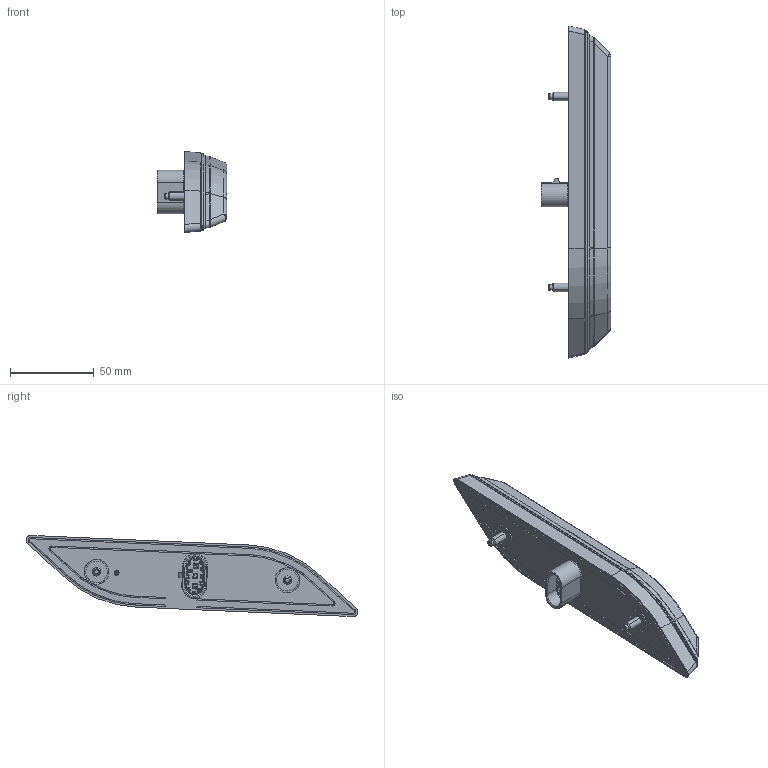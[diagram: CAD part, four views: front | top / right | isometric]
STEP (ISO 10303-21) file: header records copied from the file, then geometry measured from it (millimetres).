
FILE_DESCRIPTION(('CATIA V5 STEP Exchange','CAx-IF Rec.Pracs.--- Model Styling and Organization---1.5--- 2016-08-15','CAx-IF Rec.Pracs.---Supplemental Geometry---1.0---2011-11-01','CAx-IF Rec.Pracs.--- Composite Materials ---1.1---2010-07-15'),'2;1');
FILE_NAME('E:\tmp\ddx\2011206\HELLA_3D_data_rear_fog_light_SHAPELINE_style_013-343.stp','2022-01-18T07:37:20+00:00',('none'),('none'),'CATIA Version 5-6 Release 2020 SP3 HF9','CATIA V5 STEP AP214 Edition 3 v2','none');
FILE_SCHEMA(('AUTOMOTIVE_DESIGN { 1 0 10303 214 3 1 1 1 }'));
Products named in the file (1): 10002382629_D10_001
Bounding box: 41.4 x 198.09 x 48.43 mm (x, y, z)
Volume: 131758.5 mm3; surface area: 30227.4 mm2
Topology: 1 solids, 1 shells, 957 faces, 2274 edges, 1342 vertices
Faces by surface type: bspline 307, cylinder 272, plane 242, torus 58, cone 36, extrusion 22, sphere 16, revolution 4
Entity records: 44340 total; most frequent: CARTESIAN_POINT 25846, ORIENTED_EDGE 4520, DIRECTION 2415, EDGE_CURVE 2260, VERTEX_POINT 1342, AXIS2_PLACEMENT_3D 1021, B_SPLINE_CURVE_WITH_KNOTS 1020, EDGE_LOOP 994
